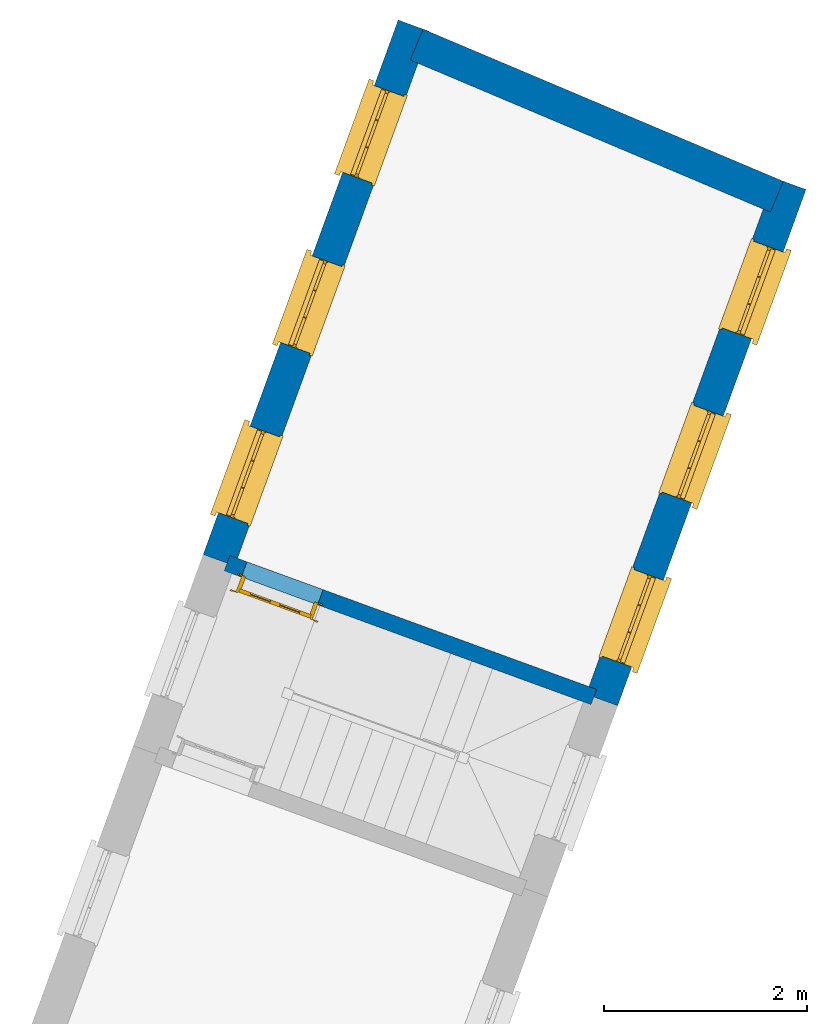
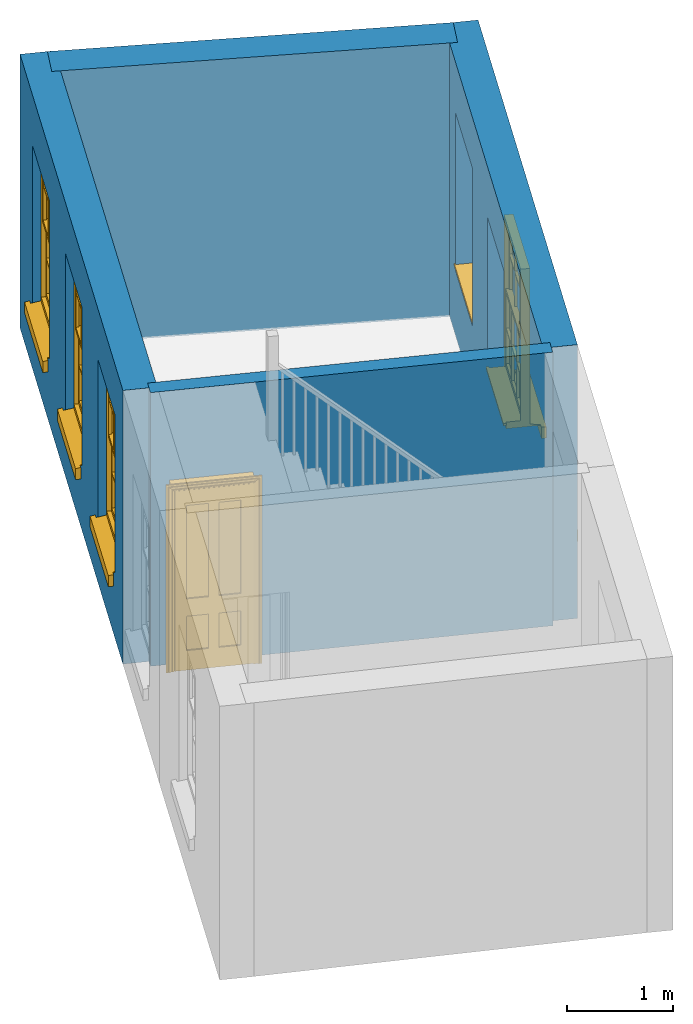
# One storey, part 2 of 2: 6 windows, 4 walls, 1 door, 7 openings.
"""IFC4 building model written with IfcOpenShell, lengths in metres."""

import ifcopenshell
import ifcopenshell.guid

model = None  # the IFC model being written
_history = None  # IfcOwnerHistory: only IFC2X3 demands one
_inside = {}  # id of a spatial element -> (the spatial element, [elements in it])
_under = {}  # id of a project, library or spatial element -> (it, [spatial elements below it])
_declared = {}  # id of a project -> (the project, [libraries it declares])
_typed = {}  # id of a type object -> (the type object, [elements of that type])
_made_of = {}  # id of a material, layer set ... -> (it, [elements and type objects made of it])


def new_model(schema):
    """Start an empty IFC model of exactly this schema.

    Asked for "IFC4X3", IfcOpenShell would pick the latest addendum, in which some entities
    have other attributes; the version numbers below select the first issue.
    IFC2X3 requires an IfcOwnerHistory on every rooted entity: one is made here for all.
    """
    global model, _history
    if schema == "IFC4X3":
        model = ifcopenshell.file(schema_version=(4, 3, 0, 0))
    else:
        model = ifcopenshell.file(schema=schema)
    _inside.clear()
    _under.clear()
    _declared.clear()
    _typed.clear()
    _made_of.clear()
    _history = None
    if model.schema == "IFC2X3":
        org = make("IfcOrganization", Name="unknown")
        user = make(
            "IfcPersonAndOrganization",
            ThePerson=make("IfcPerson", FamilyName="unknown"),
            TheOrganization=org,
        )
        app = make(
            "IfcApplication",
            ApplicationDeveloper=org,
            Version="unknown",
            ApplicationFullName="unknown",
            ApplicationIdentifier="unknown",
        )
        _history = make(
            "IfcOwnerHistory",
            OwningUser=user,
            OwningApplication=app,
            ChangeAction="ADDED",
            CreationDate=0,
        )
    return model


def make(cls, **values):
    """One entity of the class cls with the attributes given. An attribute that is None is left unset."""
    return model.create_entity(
        cls, **{name: value for name, value in values.items() if value is not None}
    )


def rooted(cls, **values):
    """An entity with a GlobalId (a new one), such as an element, a storey or a relation."""
    return make(cls, GlobalId=ifcopenshell.guid.new(), OwnerHistory=_history, **values)


def si_unit(unit_type, name, prefix=None):
    """IfcSIUnit, for example si_unit("LENGTHUNIT", "METRE", prefix="MILLI")."""
    return make("IfcSIUnit", UnitType=unit_type, Prefix=prefix, Name=name)


def assignment(units):
    """IfcUnitAssignment: the units of a project."""
    return None if units is None else make("IfcUnitAssignment", Units=units)


def point(xyz):
    """IfcCartesianPoint."""
    return None if xyz is None else make("IfcCartesianPoint", Coordinates=xyz)


def direction(xyz):
    """IfcDirection."""
    return None if xyz is None else make("IfcDirection", DirectionRatios=xyz)


def frame(location, z_axis=None, x_axis=None):
    """IfcAxis2Placement3D, a coordinate frame: its origin and axes. An axis left out is left unset."""
    return make(
        "IfcAxis2Placement3D",
        Location=point(location),
        Axis=direction(z_axis),
        RefDirection=direction(x_axis),
    )


def origin():
    """The frame at (0, 0, 0) with its axes left unset."""
    return frame((0.0, 0.0, 0.0))


def origin_with_axes():
    """The frame at (0, 0, 0) with the z axis (0, 0, 1) and the x axis (1, 0, 0) written out."""
    return frame((0.0, 0.0, 0.0), z_axis=(0.0, 0.0, 1.0), x_axis=(1.0, 0.0, 0.0))


def place(relative_to, where):
    """IfcLocalPlacement: puts the frame where relative to a parent placement (None: the world)."""
    return make(
        "IfcLocalPlacement", PlacementRelTo=relative_to, RelativePlacement=where
    )


def context(
    kind, dimensions, precision=None, world=None, true_north=None, identifier=None
):
    """IfcGeometricRepresentationContext, for example the 3D "Model" context."""
    return make(
        "IfcGeometricRepresentationContext",
        ContextIdentifier=identifier,
        ContextType=kind,
        CoordinateSpaceDimension=dimensions,
        Precision=precision,
        WorldCoordinateSystem=world,
        TrueNorth=true_north,
    )


def subcontext(parent, identifier, kind, view, scale=None):
    """IfcGeometricRepresentationSubContext, for example "Body" below "Model"."""
    return make(
        "IfcGeometricRepresentationSubContext",
        ContextIdentifier=identifier,
        ContextType=kind,
        ParentContext=parent,
        TargetScale=scale,
        TargetView=view,
    )


def project(units=None, contexts=None):
    """IfcProject with its units and contexts."""
    return rooted(
        "IfcProject",
        Name="project",
        RepresentationContexts=contexts,
        UnitsInContext=assignment(units),
    )


def spatial(cls, under=None, at=None, **own):
    """A site, building, storey or space (cls), placed at a placement, below another one or the project."""
    s = rooted(cls, ObjectPlacement=at, **own)
    if under is not None:
        _under.setdefault(under.id(), (under, []))[1].append(s)
    return s


def polyline(points):
    """IfcPolyline through the points."""
    return make("IfcPolyline", Points=[point(p) for p in points])


def outline(outer, holes=None, kind="AREA"):
    """IfcArbitraryClosedProfileDef: a profile drawn as a closed curve; with holes, ...WithVoids."""
    if holes is None:
        return make("IfcArbitraryClosedProfileDef", ProfileType=kind, OuterCurve=outer)
    return make(
        "IfcArbitraryProfileDefWithVoids",
        ProfileType=kind,
        OuterCurve=outer,
        InnerCurves=holes,
    )


def extrude(swept, where, along, depth):
    """IfcExtrudedAreaSolid: the profile swept, set in the frame where, extruded along a direction by depth."""
    return make(
        "IfcExtrudedAreaSolid",
        SweptArea=swept,
        Position=where,
        ExtrudedDirection=direction(along),
        Depth=depth,
    )


def faces_of(points, faces, orient=None, outer=None):
    """IfcFace entities. A face is a list of loops; a loop is a list of indices into points, from 0.

    orient and outer hold one flag for each loop. By default every Orientation is true, the
    first loop of a face is its IfcFaceOuterBound and the others are IfcFaceBound.
    """
    made = []
    for i, loops in enumerate(faces):
        bounds = []
        for j, loop in enumerate(loops):
            is_outer = j == 0 if outer is None else outer[i][j]
            bounds.append(
                make(
                    "IfcFaceOuterBound" if is_outer else "IfcFaceBound",
                    Bound=make("IfcPolyLoop", Polygon=[points[k] for k in loop]),
                    Orientation=True if orient is None else orient[i][j],
                )
            )
        made.append(make("IfcFace", Bounds=bounds))
    return made


def faceted_brep(points, faces, orient=None, outer=None, voids=None):
    """IfcFacetedBrep: a solid bounded by flat faces; with voids (closed shells), ...WithVoids."""
    shared = [point(p) for p in points]
    hull = make("IfcClosedShell", CfsFaces=faces_of(shared, faces, orient, outer))
    if voids is None:
        return make("IfcFacetedBrep", Outer=hull)
    return make(
        "IfcFacetedBrepWithVoids",
        Outer=hull,
        Voids=[
            make(cls, CfsFaces=faces_of(shared, fs, o, b)) for cls, fs, o, b in voids
        ],
    )


def shape(context_of_items, identifier, shape_type, items):
    """IfcShapeRepresentation: the items that make up one representation, for example the "Body"."""
    return make(
        "IfcShapeRepresentation",
        ContextOfItems=context_of_items,
        RepresentationIdentifier=identifier,
        RepresentationType=shape_type,
        Items=items,
    )


def source(mapping_origin, context_of_items, identifier, shape_type, items):
    """IfcRepresentationMap: a shape defined once, which mapped items show again and again."""
    return make(
        "IfcRepresentationMap",
        MappingOrigin=mapping_origin,
        MappedRepresentation=shape(context_of_items, identifier, shape_type, items),
    )


def transform(
    local_origin,
    x_axis=None,
    y_axis=None,
    z_axis=None,
    scale=None,
    scale2=None,
    scale3=None,
    uniform=True,
):
    """IfcCartesianTransformationOperator3D, or its non-uniform kind. x_axis, y_axis, z_axis: its Axis1, 2, 3."""
    if uniform:
        return make(
            "IfcCartesianTransformationOperator3D",
            Axis1=direction(x_axis),
            Axis2=direction(y_axis),
            LocalOrigin=point(local_origin),
            Scale=scale,
            Axis3=direction(z_axis),
        )
    return make(
        "IfcCartesianTransformationOperator3DnonUniform",
        Axis1=direction(x_axis),
        Axis2=direction(y_axis),
        LocalOrigin=point(local_origin),
        Scale=scale,
        Axis3=direction(z_axis),
        Scale2=scale2,
        Scale3=scale3,
    )


def mapped(mapping_source, mapping_target):
    """IfcMappedItem: shows the shape of a source again, moved by a transform."""
    return make(
        "IfcMappedItem", MappingSource=mapping_source, MappingTarget=mapping_target
    )


def material(Name=None, Category=None):
    """IfcMaterial."""
    return make("IfcMaterial", Name=Name, Category=Category)


def layer(
    of_material, thickness, ventilated=None, Name=None, Category=None, Priority=None
):
    """IfcMaterialLayer: one layer of a wall or slab, of a material (None: an air gap)."""
    return make(
        "IfcMaterialLayer",
        Material=of_material,
        LayerThickness=thickness,
        IsVentilated=ventilated,
        Name=Name,
        Category=Category,
        Priority=Priority,
    )


def layer_set(layers, Name=None):
    """IfcMaterialLayerSet."""
    return make("IfcMaterialLayerSet", MaterialLayers=layers, LayerSetName=Name)


def layer_usage(for_layer_set, set_direction, sense, offset, extent=None):
    """IfcMaterialLayerSetUsage: how a layer set lies in its element."""
    return make(
        "IfcMaterialLayerSetUsage",
        ForLayerSet=for_layer_set,
        LayerSetDirection=set_direction,
        DirectionSense=sense,
        OffsetFromReferenceLine=offset,
        ReferenceExtent=extent,
    )


def made_of(thing, what):
    """Note that an element or type object is made of a material, layer set ...; save() writes the relation."""
    if what is not None:
        _made_of.setdefault(what.id(), (what, []))[1].append(thing)
    return thing


def type_object(cls, material=None, **own):
    """A type object (cls), such as IfcWallType, which elements share."""
    return made_of(rooted(cls, **own), material)


def type_shapes(of_type, sources):
    """Give a type object the sources (RepresentationMaps) that its elements show as mapped items."""
    of_type.RepresentationMaps = sources


def element(
    cls,
    number,
    at=None,
    inside=None,
    cuts=None,
    type_object=None,
    material=None,
    context=None,
    identifier="Body",
    shape_type=None,
    held_by="IfcProductDefinitionShape",
    body=None,
    shapes=None,
    **own,
):
    """One element of the class cls, such as IfcWall. Its Tag is "e" and its number.

    at: its placement. inside: the storey or other place that contains it. cuts: it is an
    opening in that element (IfcRelVoidsElement). A single representation is given by context,
    identifier, shape_type and body (its items); several are given by shapes. held_by: the class
    of the entity that holds the representations. save() writes the other relations.
    """
    e = rooted(cls, Tag="e%d" % number, ObjectPlacement=at, **own)
    if body is not None:
        shapes = [shape(context, identifier, shape_type, body)]
    if shapes is not None:
        e.Representation = make(held_by, Representations=shapes)
    if inside is not None:
        _inside.setdefault(inside.id(), (inside, []))[1].append(e)
    if cuts is not None:
        rooted(
            "IfcRelVoidsElement", RelatingBuildingElement=cuts, RelatedOpeningElement=e
        )
    if type_object is not None:
        _typed.setdefault(type_object.id(), (type_object, []))[1].append(e)
    return made_of(e, material)


def fill(opening, filler):
    """IfcRelFillsElement: the door or window that sits in an opening."""
    return rooted(
        "IfcRelFillsElement",
        RelatingOpeningElement=opening,
        RelatedBuildingElement=filler,
    )


def aggregate(whole, parts):
    """IfcRelAggregates: a whole, such as a stair, and the parts it consists of."""
    return rooted("IfcRelAggregates", RelatingObject=whole, RelatedObjects=parts)


def save(model, path):
    """Write the relations noted so far, then the file.

    IfcRelAggregates (storeys below a building ...), IfcRelContainedInSpatialStructure (elements
    in a storey), IfcRelDefinesByType, IfcRelAssociatesMaterial and IfcRelDeclares: one each for
    every whole, place, type object, material and project.
    """
    for whole, parts in _under.values():
        aggregate(whole, parts)
    for where, things in _inside.values():
        rooted(
            "IfcRelContainedInSpatialStructure",
            RelatedElements=things,
            RelatingStructure=where,
        )
    for kind, things in _typed.values():
        rooted("IfcRelDefinesByType", RelatedObjects=things, RelatingType=kind)
    for what, things in _made_of.values():
        rooted("IfcRelAssociatesMaterial", RelatedObjects=things, RelatingMaterial=what)
    for by, libraries in _declared.values():
        rooted("IfcRelDeclares", RelatingContext=by, RelatedDefinitions=libraries)
    model.write(path)


model = new_model("IFC4")

# Units and contexts
model_context = context("Model", 3, world=origin_with_axes())
body_context = subcontext(model_context, "Body", "Model", "MODEL_VIEW")
ifc_project = project(units=[si_unit("PLANEANGLEUNIT", "RADIAN"), si_unit("MASSUNIT", "GRAM", prefix="KILO"), si_unit("FORCEUNIT", "NEWTON", prefix="KILO"), si_unit("LENGTHUNIT", "METRE"), si_unit("AREAUNIT", "SQUARE_METRE"), si_unit("VOLUMEUNIT", "CUBIC_METRE")], contexts=[model_context, model_context])

# Sites, building, storey
site_1_placement = place(None, origin_with_axes())
site_1 = spatial("IfcSite", under=ifc_project, at=site_1_placement, Name="Tamar")
site_2_placement = place(site_1_placement, origin_with_axes())
site_2 = spatial("IfcSite", under=site_1, at=site_2_placement, Name="Site plot-14", CompositionType="ELEMENT")
building_placement = place(None, origin_with_axes())
building = spatial("IfcBuilding", under=site_2, at=building_placement, Name="Building plot-14", CompositionType="ELEMENT")
storey_placement = place(None, frame((0.0, 0.0, 30.4), z_axis=(0.0, 0.0, 1.0), x_axis=(1.0, 0.0, 0.0)))
storey = spatial("IfcBuildingStorey", under=building, at=storey_placement, Name="plot-14 1", CompositionType="ELEMENT", Elevation=30.4)

# Wall, openings, windows
ifc_material_1 = material(Name="Masonry")
ifc_layer_1 = layer(ifc_material_1, 0.33, ventilated=False)
ifc_layer_set_1 = layer_set([ifc_layer_1], Name="exterior_0.08_0.25")
ifc_layer_usage_1 = layer_usage(ifc_layer_set_1, "AXIS2", "POSITIVE", -0.25)
wall_type_1 = type_object("IfcWallType", Name="exterior_0.08_0.25", PredefinedType="SOLIDWALL", material=ifc_layer_set_1)
wall_1_placement = place(storey_placement, frame((252.099215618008, 316.338381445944, 0.0), z_axis=(0.0, 0.0, 1.0), x_axis=(-0.342734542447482, -0.939432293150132, 0.0)))
wall_1 = element("IfcWall", 1, at=wall_1_placement, inside=storey, type_object=wall_type_1, material=ifc_layer_usage_1, Name="exterior", context=body_context, shape_type="SweptSolid", body=[
    extrude(outline(polyline([(-0.249999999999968, 0.0800000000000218), (-0.24999999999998, -0.249999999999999), (5.36216844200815, -0.250000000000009), (5.36216844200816, 0.0800000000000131), (-0.249999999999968, 0.0800000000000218)])), origin_with_axes(), (0.0, 0.0, 1.0), 3.15),
])
opening_1_placement = place(wall_1_placement, frame((0.438694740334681, 0.0, 0.75)))
opening_1 = element("IfcOpeningElement", 2, at=opening_1_placement, cuts=wall_1, Name="My Opening", ObjectType="Opening", context=body_context, shape_type="SweptSolid", body=[
    extrude(outline(polyline([(0.0, -0.270000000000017), (0.910000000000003, -0.269999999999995), (0.910000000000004, 1.10000000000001), (8.32667268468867e-16, 1.09999999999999), (0.0, -0.270000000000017)])), origin_with_axes(), (0.0, 0.0, 1.0), 1.82),
])
opening_2_placement = place(wall_1_placement, frame((2.22608422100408, 0.0, 0.75)))
opening_2 = element("IfcOpeningElement", 3, at=opening_2_placement, cuts=wall_1, Name="My Opening", ObjectType="Opening", context=body_context, shape_type="SweptSolid", body=[
    extrude(outline(polyline([(0.0, -0.27000000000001), (0.909999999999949, -0.270000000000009), (0.909999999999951, 1.1), (1.33226762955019e-15, 1.1), (0.0, -0.27000000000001)])), origin_with_axes(), (0.0, 0.0, 1.0), 1.82),
])
opening_3_placement = place(wall_1_placement, frame((4.01347370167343, 0.0, 0.75)))
opening_3 = element("IfcOpeningElement", 4, at=opening_3_placement, cuts=wall_1, Name="My Opening", ObjectType="Opening", context=body_context, shape_type="SweptSolid", body=[
    extrude(outline(polyline([(0.0, -0.270000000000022), (0.910000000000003, -0.270000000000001), (0.910000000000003, 1.10000000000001), (0.0, 1.09999999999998), (0.0, -0.270000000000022)])), origin_with_axes(), (0.0, 0.0, 1.0), 1.82),
])
window_type = type_object("IfcWindowType", Name="sash_big", PartitioningType="DOUBLE_PANEL_HORIZONTAL", PredefinedType="NOTDEFINED")
shared_shape_1 = source(origin(), body_context, "Body", "Brep", [
    faceted_brep([(0.033125, 0.145, 0.975209), (0.01, 0.145, 0.975209), (0.033125, 0.145, 1.376042), (0.876875, 0.145, 0.975209), (0.876875, 0.145, 1.376042), (0.9, 0.145, 0.975209), (0.876875, 0.145, 1.386042), (0.876875, 0.145, 1.786875), (0.9, 0.145, 1.81), (0.033125, 0.145, 1.786875), (0.033125, 0.145, 1.386042), (0.01, 0.145, 1.81), (0.876875, 0.115, 1.376042), (0.876875, 0.115, 0.975209), (0.9, 0.115, 0.937083), (0.033125, 0.115, 1.786875), (0.01, 0.115, 1.81), (0.033125, 0.115, 1.386042), (0.01, 0.115, 0.937083), (0.033125, 0.115, 0.975209), (0.033125, 0.115, 1.376042), (0.876875, 0.115, 1.786875), (0.876875, 0.115, 1.386042), (0.9, 0.115, 1.81), (0.033125, 0.145, 0.937083), (0.01, 0.145, 0.937083), (0.033125, 0.145, 0.53625), (0.876875, 0.145, 0.937083), (0.876875, 0.145, 0.53625), (0.9, 0.145, 0.937083), (0.876875, 0.145, 0.52625), (0.876875, 0.145, 0.125417), (0.9, 0.145, 0.077167), (0.033125, 0.145, 0.125417), (0.033125, 0.145, 0.52625), (0.01, 0.145, 0.077167), (-0.0425, 0.0, 0.01), (-0.0425, -0.05, 0.001667), (0.0, 0.0, 0.01), (0.9525, 0.0, 0.01), (0.91, 0.0, 0.01), (0.9525, -0.05, 0.001667), (-0.02, 0.33, 0.077167), (0.0, 0.33, 0.077167), (-0.02, 0.36, 0.077167), (0.0, 0.19, 0.077167), (0.01, 0.19, 0.077167), (0.91, 0.19, 0.077167), (0.91, 0.33, 0.077167), (0.9, 0.19, 0.077167), (0.93, 0.33, 0.077167), (0.93, 0.36, 0.077167), (0.01, 0.175, 0.975209), (0.9, 0.175, 0.975209), (0.876875, 0.175, 0.125417), (0.876875, 0.175, 0.52625), (0.9, 0.175, 0.077167), (0.876875, 0.175, 0.53625), (0.876875, 0.175, 0.937083), (0.033125, 0.175, 0.125417), (0.01, 0.175, 0.077167), (0.033125, 0.175, 0.52625), (0.033125, 0.175, 0.937083), (0.033125, 0.175, 0.53625), (-0.02, 0.33, 0.052167), (-0.02, 0.36, 0.052167), (0.93, 0.36, 0.052167), (0.93, 0.33, 0.052167), (0.91, 0.33, 0.052167), (0.0, 0.33, 0.052167), (0.91, 0.1, 0.026667), (0.0, 0.1, 0.026667), (-0.0425, -0.05, -0.123333), (0.9525, -0.05, -0.123333), (-0.0425, 0.0, -0.123333), (0.9525, 0.0, -0.123333), (0.01, 0.19, 1.81), (0.9, 0.19, 1.81), (0.0, 0.19, 1.82), (0.91, 0.19, 1.82), (0.01, 0.1, 0.077167), (0.9, 0.1, 0.077167), (0.592292, 0.145, 0.125417), (0.592292, 0.175, 0.125417), (0.317708, 0.175, 0.125417), (0.317708, 0.145, 0.125417), (0.592292, 0.145, 0.53625), (0.317708, 0.145, 0.53625), (0.317708, 0.145, 0.52625), (0.592292, 0.145, 0.52625), (0.592292, 0.175, 0.53625), (0.317708, 0.175, 0.53625), (0.592292, 0.115, 1.386042), (0.592292, 0.145, 1.386042), (0.317708, 0.145, 1.386042), (0.317708, 0.115, 1.386042), (0.317708, 0.115, 1.376042), (0.592292, 0.115, 1.376042), (0.317708, 0.145, 1.376042), (0.592292, 0.145, 1.376042), (0.602292, 0.115, 1.376042), (0.592292, 0.115, 0.975209), (0.602292, 0.115, 0.975209), (0.602292, 0.145, 0.975209), (0.592292, 0.145, 0.975209), (0.602292, 0.145, 1.376042), (0.602292, 0.175, 0.53625), (0.602292, 0.145, 0.53625), (0.317708, 0.175, 0.52625), (0.307708, 0.175, 0.125417), (0.307708, 0.175, 0.52625), (0.602292, 0.175, 0.52625), (0.602292, 0.175, 0.125417), (0.592292, 0.175, 0.52625), (0.307708, 0.175, 0.53625), (0.317708, 0.175, 0.937083), (0.307708, 0.175, 0.937083), (0.602292, 0.175, 0.937083), (0.592292, 0.175, 0.937083), (0.307708, 0.145, 0.52625), (0.307708, 0.145, 0.125417), (0.307708, 0.145, 0.53625), (0.307708, 0.145, 0.937083), (0.592292, 0.145, 0.937083), (0.317708, 0.145, 0.937083), (0.602292, 0.145, 0.937083), (0.602292, 0.145, 0.52625), (0.602292, 0.145, 0.125417), (0.307708, 0.115, 1.386042), (0.307708, 0.115, 1.376042), (0.307708, 0.115, 0.975209), (0.317708, 0.115, 0.975209), (0.317708, 0.115, 1.786875), (0.307708, 0.115, 1.786875), (0.602292, 0.115, 1.786875), (0.592292, 0.115, 1.786875), (0.602292, 0.115, 1.386042), (0.602292, 0.145, 1.386042), (0.307708, 0.145, 1.386042), (0.307708, 0.145, 1.786875), (0.317708, 0.145, 1.786875), (0.592292, 0.145, 1.786875), (0.602292, 0.145, 1.786875), (0.307708, 0.145, 1.376042), (0.317708, 0.145, 0.975209), (0.307708, 0.145, 0.975209), (0.91, 0.1, 1.82), (0.9, 0.1, 1.81), (0.01, 0.1, 1.81), (0.0, 0.1, 1.82), (0.91, 0.0, 0.0), (0.0, 0.0, 0.0), (0.91, 0.33, 0.0), (0.0, 0.33, 0.0)], [[[0, 1, 2]], [[3, 4, 5]], [[6, 7, 8]], [[9, 10, 11]], [[12, 13, 14]], [[15, 16, 17]], [[18, 19, 20]], [[21, 22, 23]], [[24, 25, 26]], [[27, 28, 29]], [[30, 31, 32]], [[33, 34, 35]], [[14, 27, 29]], [[25, 24, 18]], [[36, 37, 38]], [[39, 40, 41]], [[42, 43, 44]], [[45, 46, 43]], [[47, 48, 49]], [[50, 51, 48]], [[1, 0, 52]], [[5, 53, 3]], [[54, 55, 56]], [[57, 58, 53]], [[59, 60, 61]], [[62, 63, 52]], [[48, 43, 46, 49]], [[51, 44, 43, 48]], [[64, 42, 44, 65]], [[65, 44, 51, 66]], [[66, 51, 50, 67]], [[65, 66, 68, 69]], [[60, 56, 49, 46]], [[70, 71, 38, 40]], [[37, 41, 40, 38]], [[37, 72, 73, 41]], [[74, 75, 73, 72]], [[8, 11, 76, 77]], [[76, 78, 79, 77]], [[32, 35, 80, 81]], [[81, 80, 71, 70]], [[82, 83, 84, 85]], [[86, 87, 88, 89]], [[86, 90, 91, 87]], [[92, 93, 94, 95]], [[92, 95, 96, 97]], [[96, 98, 99, 97]], [[100, 97, 101, 102]], [[103, 104, 99, 105]], [[97, 99, 104, 101]], [[102, 103, 105, 100]], [[28, 57, 106, 107]], [[108, 84, 109, 110]], [[111, 112, 83, 113]], [[114, 110, 61, 63]], [[90, 113, 108, 91]], [[115, 91, 114, 116]], [[117, 106, 90, 118]], [[111, 106, 57, 55]], [[119, 110, 109, 120]], [[34, 61, 110, 119]], [[89, 113, 83, 82]], [[88, 108, 113, 89]], [[85, 84, 108, 88]], [[121, 114, 63, 26]], [[122, 116, 114, 121]], [[123, 118, 90, 86]], [[87, 91, 115, 124]], [[107, 106, 117, 125]], [[126, 111, 55, 30]], [[127, 112, 111, 126]], [[126, 30, 28, 107]], [[88, 119, 120, 85]], [[126, 89, 82, 127]], [[125, 123, 86, 107]], [[121, 26, 34, 119]], [[124, 122, 121, 87]], [[128, 17, 20, 129]], [[96, 129, 130, 131]], [[132, 133, 128, 95]], [[134, 135, 92, 136]], [[100, 12, 22, 136]], [[137, 6, 4, 105]], [[94, 138, 139, 140]], [[137, 93, 141, 142]], [[99, 98, 94, 93]], [[143, 2, 10, 138]], [[144, 145, 143, 98]], [[129, 143, 145, 130]], [[20, 2, 143, 129]], [[131, 144, 98, 96]], [[128, 138, 10, 17]], [[133, 139, 138, 128]], [[135, 141, 93, 92]], [[95, 94, 140, 132]], [[22, 6, 137, 136]], [[136, 137, 142, 134]], [[100, 105, 4, 12]], [[107, 86, 89, 126]], [[106, 111, 113, 90]], [[91, 108, 110, 114]], [[87, 121, 119, 88]], [[97, 100, 136, 92]], [[129, 96, 95, 128]], [[98, 143, 138, 94]], [[105, 99, 93, 137]], [[131, 101, 104, 144]], [[124, 115, 118, 123]], [[132, 140, 141, 135]], [[120, 109, 59, 33]], [[15, 9, 139, 133]], [[134, 142, 7, 21]], [[31, 54, 112, 127]], [[36, 74, 72, 37]], [[39, 41, 73, 75]], [[18, 14, 101, 131]], [[23, 16, 132, 135]], [[83, 56, 60, 84]], [[52, 53, 118, 115]], [[53, 52, 144, 104]], [[11, 8, 141, 140]], [[14, 18, 124, 123]], [[2, 1, 11, 10]], [[8, 5, 4, 6]], [[57, 53, 56, 55]], [[60, 52, 63, 61]], [[26, 25, 35, 34]], [[32, 29, 28, 30]], [[14, 23, 22, 12]], [[18, 20, 17, 16]], [[19, 0, 2, 20]], [[17, 10, 9, 15]], [[12, 4, 3, 13]], [[21, 7, 6, 22]], [[27, 58, 57, 28]], [[30, 55, 54, 31]], [[33, 59, 61, 34]], [[26, 63, 62, 24]], [[5, 8, 77, 53]], [[76, 11, 1, 52]], [[46, 45, 78, 76]], [[49, 77, 79, 47]], [[70, 146, 147, 81]], [[71, 80, 148, 149]], [[19, 130, 145, 0]], [[102, 13, 3, 103]], [[116, 122, 24, 62]], [[29, 32, 81, 14]], [[80, 35, 25, 18]], [[60, 46, 76, 52]], [[77, 49, 56, 53]], [[23, 14, 81, 147]], [[16, 148, 80, 18]], [[35, 85, 120]], [[120, 33, 35]], [[127, 82, 32]], [[32, 31, 127]], [[32, 82, 85, 35]], [[102, 101, 14]], [[14, 13, 102]], [[18, 131, 130]], [[130, 19, 18]], [[134, 21, 23]], [[23, 135, 134]], [[16, 15, 133]], [[133, 132, 16]], [[11, 140, 139]], [[139, 9, 11]], [[142, 141, 8]], [[8, 7, 142]], [[23, 147, 148, 16]], [[146, 149, 148, 147]], [[52, 115, 116]], [[116, 62, 52]], [[118, 53, 117]], [[58, 117, 53]], [[27, 125, 117, 58]], [[56, 83, 112]], [[112, 54, 56]], [[109, 84, 60]], [[60, 59, 109]], [[125, 27, 14]], [[14, 123, 125]], [[122, 124, 18]], [[18, 24, 122]], [[145, 144, 52]], [[52, 0, 145]], [[103, 3, 53]], [[53, 104, 103]], [[79, 78, 149, 146]], [[78, 45, 71, 149]], [[146, 70, 47, 79]], [[150, 75, 74, 151]], [[68, 66, 67]], [[48, 68, 67, 50]], [[69, 64, 65]], [[42, 64, 69, 43]], [[69, 68, 152, 153]], [[70, 68, 48, 47]], [[150, 152, 68, 70]], [[43, 69, 71, 45]], [[69, 153, 151, 71]], [[152, 150, 151, 153]], [[38, 151, 74, 36]], [[71, 151, 38]], [[39, 75, 150, 40]], [[40, 150, 70]]]),
])
type_shapes(window_type, [shared_shape_1])
window_1_placement = place(storey_placement, frame((251.695213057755, 316.018795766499, 0.75), z_axis=(0.0, 0.0, 1.0), x_axis=(-0.311888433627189, -0.85488338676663, 0.0)))
window_1 = element("IfcWindow", 5, at=window_1_placement, inside=storey, type_object=window_type, Name="bedroom outside window", OverallHeight=1.82, OverallWidth=0.91, context=body_context, shape_type="MappedRepresentation", body=[
    mapped(shared_shape_1, transform((0.0, 0.0, 0.0), scale=1.0)),
])
fill(opening_1, window_1)
window_2_placement = place(storey_placement, frame((251.082612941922, 314.339664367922, 0.75), z_axis=(0.0, 0.0, 1.0), x_axis=(-0.311888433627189, -0.854883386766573, 0.0)))
window_2 = element("IfcWindow", 6, at=window_2_placement, inside=storey, type_object=window_type, Name="bedroom outside window", OverallHeight=1.82, OverallWidth=0.91, context=body_context, shape_type="MappedRepresentation", body=[
    mapped(shared_shape_1, transform((0.0, 0.0, 0.0), scale=1.0)),
])
fill(opening_2, window_2)
window_3_placement = place(storey_placement, frame((250.470012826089, 312.660532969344, 0.75), z_axis=(0.0, 0.0, 1.0), x_axis=(-0.311888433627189, -0.85488338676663, 0.0)))
window_3 = element("IfcWindow", 7, at=window_3_placement, inside=storey, type_object=window_type, Name="bedroom outside window", OverallHeight=1.82, OverallWidth=0.91, context=body_context, shape_type="MappedRepresentation", body=[
    mapped(shared_shape_1, transform((0.0, 0.0, 0.0), scale=1.0)),
])
fill(opening_3, window_3)

wall_2_placement = place(storey_placement, frame((253.880110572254, 309.980773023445, 0.0), z_axis=(0.0, 0.0, 1.0), x_axis=(0.342734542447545, 0.939432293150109, 0.0)))
wall_2 = element("IfcWall", 8, at=wall_2_placement, inside=storey, type_object=wall_type_1, material=ifc_layer_usage_1, Name="exterior", context=body_context, shape_type="SweptSolid", body=[
    extrude(outline(polyline([(7.25243449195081e-15, 0.0800000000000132), (1.80009210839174e-14, -0.250000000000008), (5.4201362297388, -0.250000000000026), (5.42013622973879, 0.0799999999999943), (7.25243449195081e-15, 0.0800000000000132)])), origin_with_axes(), (0.0, 0.0, 1.0), 3.15),
])
opening_4_placement = place(wall_2_placement, frame((0.406689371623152, 0.0, 0.75)))
opening_4 = element("IfcOpeningElement", 9, at=opening_4_placement, cuts=wall_2, Name="My Opening", ObjectType="Opening", context=body_context, shape_type="SweptSolid", body=[
    extrude(outline(polyline([(0.0, -0.269999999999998), (0.909999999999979, -0.270000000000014), (0.910000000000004, 1.10000000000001), (2.55906407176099e-14, 1.10000000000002), (0.0, -0.269999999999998)])), origin_with_axes(), (0.0, 0.0, 1.0), 1.82),
])
opening_5_placement = place(wall_2_placement, frame((2.13006811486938, 0.0, 0.75)))
opening_5 = element("IfcOpeningElement", 10, at=opening_5_placement, cuts=wall_2, Name="My Opening", ObjectType="Opening", context=body_context, shape_type="SweptSolid", body=[
    extrude(outline(polyline([(0.0, -0.270000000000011), (0.910000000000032, -0.270000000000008), (0.910000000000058, 1.10000000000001), (2.53130849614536e-14, 1.10000000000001), (0.0, -0.270000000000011)])), origin_with_axes(), (0.0, 0.0, 1.0), 1.82),
])
opening_6_placement = place(wall_2_placement, frame((3.85344685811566, 0.0, 0.75)))
opening_6 = element("IfcOpeningElement", 11, at=opening_6_placement, cuts=wall_2, Name="My Opening", ObjectType="Opening", context=body_context, shape_type="SweptSolid", body=[
    extrude(outline(polyline([(0.0, -0.270000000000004), (0.909999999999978, -0.270000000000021), (0.910000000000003, 1.1), (2.48689957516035e-14, 1.10000000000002), (0.0, -0.270000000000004)])), origin_with_axes(), (0.0, 0.0, 1.0), 1.82),
])
window_4_placement = place(storey_placement, frame((254.273143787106, 310.270291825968, 0.75), z_axis=(0.0, 0.0, 1.0), x_axis=(0.311888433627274, 0.854883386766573, 0.0)))
window_4 = element("IfcWindow", 12, at=window_4_placement, inside=storey, type_object=window_type, Name="bedroom outside window", OverallHeight=1.82, OverallWidth=0.91, context=body_context, shape_type="MappedRepresentation", body=[
    mapped(shared_shape_1, transform((0.0, 0.0, 0.0), scale=1.0)),
])
fill(opening_4, window_4)
window_5_placement = place(storey_placement, frame((254.863805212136, 311.889289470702, 0.75), z_axis=(0.0, 0.0, 1.0), x_axis=(0.311888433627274, 0.85488338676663, 0.0)))
window_5 = element("IfcWindow", 13, at=window_5_placement, inside=storey, type_object=window_type, Name="bedroom outside window", OverallHeight=1.82, OverallWidth=0.91, context=body_context, shape_type="MappedRepresentation", body=[
    mapped(shared_shape_1, transform((0.0, 0.0, 0.0), scale=1.0)),
])
fill(opening_5, window_5)
window_6_placement = place(storey_placement, frame((255.454466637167, 313.508287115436, 0.75), z_axis=(0.0, 0.0, 1.0), x_axis=(0.311888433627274, 0.854883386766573, 0.0)))
window_6 = element("IfcWindow", 14, at=window_6_placement, inside=storey, type_object=window_type, Name="bedroom outside window", OverallHeight=1.82, OverallWidth=0.91, context=body_context, shape_type="MappedRepresentation", body=[
    mapped(shared_shape_1, transform((0.0, 0.0, 0.0), scale=1.0)),
])
fill(opening_6, window_6)

# Wall
ifc_material_2 = material(Name="Masonry")
ifc_layer_2 = layer(ifc_material_2, 0.33, ventilated=False)
ifc_layer_set_2 = layer_set([ifc_layer_2], Name="party_0.08_0.25")
ifc_layer_usage_2 = layer_usage(ifc_layer_set_2, "AXIS2", "POSITIVE", -0.25)
wall_type_2 = type_object("IfcWallType", Name="party_0.08_0.25", PredefinedType="SOLIDWALL", material=ifc_layer_set_2)
wall_3_placement = place(storey_placement, frame((255.652094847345, 314.837765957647, 0.0), z_axis=(0.0, 0.0, 1.0), x_axis=(-0.921202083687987, 0.389084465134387, 0.0)))
element("IfcWall", 15, at=wall_3_placement, inside=storey, type_object=wall_type_2, material=ifc_layer_usage_2, Name="party", context=body_context, shape_type="SweptSolid", body=[
    extrude(outline(polyline([(1.46420789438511e-14, 0.0799999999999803), (9.89629300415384e-15, -0.250000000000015), (3.85678592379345, -0.250000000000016), (3.85678592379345, 0.0799999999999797), (1.46420789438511e-14, 0.0799999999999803)])), origin_with_axes(), (0.0, 0.0, 1.0), 3.15),
])

# Wall, opening, door
ifc_material_3 = material(Name="Masonry")
ifc_layer_3 = layer(ifc_material_3, 0.16, ventilated=False)
ifc_layer_set_3 = layer_set([ifc_layer_3], Name="interior_0.08_0.08")
ifc_layer_usage_3 = layer_usage(ifc_layer_set_3, "AXIS2", "POSITIVE", -0.08)
wall_type_3 = type_object("IfcWallType", Name="interior_0.08_0.08", PredefinedType="SOLIDWALL", material=ifc_layer_set_3)
wall_4_placement = place(storey_placement, frame((253.880110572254, 309.980773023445, 0.0), z_axis=(0.0, 0.0, 1.0), x_axis=(-0.939432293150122, 0.34273454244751, 0.0)))
wall_4 = element("IfcWall", 16, at=wall_4_placement, inside=storey, type_object=wall_type_3, material=ifc_layer_usage_3, Name="interior", context=body_context, shape_type="SweptSolid", body=[
    extrude(outline(polyline([(1.9971149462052e-14, 0.0799999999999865), (-1.99613522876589e-14, -0.0799999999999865), (3.85200224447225, -0.0799999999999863), (3.85200224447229, 0.0799999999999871), (1.9971149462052e-14, 0.0799999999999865)])), origin_with_axes(), (0.0, 0.0, 1.0), 3.15),
])
opening_7_placement = place(wall_4_placement, frame((2.87200224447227, 0.0, 0.0199999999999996)))
opening_7 = element("IfcOpeningElement", 17, at=opening_7_placement, cuts=wall_4, Name="My Opening", ObjectType="Opening", context=body_context, shape_type="SweptSolid", body=[
    extrude(outline(polyline([(0.0, -0.0999999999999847), (0.799999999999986, -0.10000000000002), (0.800000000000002, 1.09999999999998), (1.55431223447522e-14, 1.10000000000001), (0.0, -0.0999999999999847)])), origin_with_axes(), (0.0, 0.0, 1.0), 2.1),
])
door_type = type_object("IfcDoorType", Name="door_inside", OperationType="SINGLE_SWING_LEFT", PredefinedType="NOTDEFINED")
shared_shape_2 = source(origin(), body_context, "Body", "Brep", [
    faceted_brep([(0.773, 0.33, 1.895), (0.66, 0.33, 1.895), (0.66, 0.33, 2.073), (0.773, 0.33, 2.073), (0.773, 0.33, 0.82), (0.66, 0.33, 0.82), (0.45, 0.33, 1.895), (0.45, 0.33, 2.073), (0.773, 0.33, 0.62), (0.66, 0.33, 0.62), (0.66, 0.315, 0.82), (0.66, 0.315, 1.895), (0.45, 0.315, 1.895), (0.35, 0.33, 1.895), (0.35, 0.33, 2.073), (0.773, 0.33, 0.225), (0.66, 0.33, 0.225), (0.45, 0.33, 0.62), (0.45, 0.33, 0.82), (0.45, 0.315, 0.82), (0.35, 0.33, 0.82), (0.14, 0.33, 2.073), (0.14, 0.33, 1.895), (0.773, 0.33, 0.0), (0.66, 0.33, 0.0), (0.66, 0.315, 0.225), (0.66, 0.315, 0.62), (0.45, 0.315, 0.62), (0.35, 0.33, 0.62), (0.35, 0.315, 0.82), (0.35, 0.315, 1.895), (0.14, 0.315, 1.895), (0.027, 0.33, 2.073), (0.027, 0.33, 1.895), (0.773, 0.292, 0.0), (0.66, 0.292, 0.0), (0.45, 0.33, 0.0), (0.45, 0.33, 0.225), (0.45, 0.315, 0.225), (0.35, 0.33, 0.225), (0.14, 0.33, 0.82), (0.14, 0.33, 0.62), (0.14, 0.315, 0.82), (0.027, 0.33, 0.82), (0.773, 0.292, 0.225), (0.66, 0.292, 0.225), (0.45, 0.292, 0.0), (0.35, 0.33, 0.0), (0.35, 0.315, 0.225), (0.35, 0.315, 0.62), (0.14, 0.315, 0.62), (0.027, 0.33, 0.62), (0.773, 0.292, 0.62), (0.66, 0.292, 0.62), (0.45, 0.292, 0.225), (0.35, 0.292, 0.0), (0.14, 0.33, 0.225), (0.14, 0.33, 0.0), (0.14, 0.315, 0.225), (0.027, 0.33, 0.225), (0.773, 0.292, 0.82), (0.66, 0.292, 0.82), (0.66, 0.307, 0.62), (0.66, 0.307, 0.225), (0.45, 0.307, 0.225), (0.35, 0.292, 0.225), (0.14, 0.292, 0.0), (0.027, 0.33, 0.0), (0.773, 0.292, 1.895), (0.66, 0.292, 1.895), (0.45, 0.292, 0.62), (0.45, 0.292, 0.82), (0.45, 0.307, 0.62), (0.35, 0.292, 0.62), (0.14, 0.292, 0.225), (0.027, 0.292, 0.0), (0.773, 0.292, 2.073), (0.66, 0.292, 2.073), (0.66, 0.307, 1.895), (0.66, 0.307, 0.82), (0.45, 0.307, 0.82), (0.35, 0.292, 0.82), (0.35, 0.307, 0.62), (0.35, 0.307, 0.225), (0.14, 0.307, 0.225), (0.027, 0.292, 0.225), (0.45, 0.292, 1.895), (0.45, 0.292, 2.073), (0.45, 0.307, 1.895), (0.35, 0.292, 1.895), (0.14, 0.292, 0.82), (0.14, 0.292, 0.62), (0.14, 0.307, 0.62), (0.027, 0.292, 0.62), (0.35, 0.292, 2.073), (0.35, 0.307, 1.895), (0.35, 0.307, 0.82), (0.14, 0.307, 0.82), (0.027, 0.292, 0.82), (0.14, 0.292, 2.073), (0.14, 0.292, 1.895), (0.14, 0.307, 1.895), (0.027, 0.292, 1.895), (0.027, 0.292, 2.073), (0.02, 0.335, 0.0), (0.005, 0.34, 0.0), (0.005, 0.34, 2.095), (0.02, 0.335, 2.08), (0.02, 0.33, 0.0), (0.0, 0.335, 0.0), (0.0, 0.335, 2.1), (0.795, 0.34, 2.095), (0.78, 0.335, 2.08), (0.02, 0.33, 2.08), (0.0, 0.33, 0.0), (-0.032, 0.345, 0.0), (-0.032, 0.345, 2.132), (0.8, 0.335, 2.1), (0.795, 0.34, 0.0), (0.78, 0.335, 0.0), (0.78, 0.33, 2.08), (0.04, 0.29, 0.0), (0.025, 0.29, 0.0), (0.025, 0.29, 2.075), (0.04, 0.29, 2.06), (-0.04, 0.34, 0.0), (-0.04, 0.34, 2.14), (0.832, 0.345, 2.132), (0.8, 0.335, 0.0), (0.78, 0.33, 0.0), (0.8, 0.33, 0.0), (0.86, 0.33, 0.0), (0.86, 0.33, 2.16), (0.8, 0.33, 2.1), (-0.06, 0.33, 2.16), (0.0, 0.33, 2.1), (-0.06, 0.33, 0.0), (-0.04, 0.345, 0.0), (-0.04, 0.345, 2.14), (0.84, 0.34, 2.14), (0.832, 0.345, 0.0), (0.84, 0.34, 0.0), (0.86, 0.345, 0.0), (0.86, 0.345, 2.16), (-0.06, 0.345, 2.16), (-0.06, 0.345, 0.0), (0.84, 0.345, 0.0), (0.84, 0.345, 2.14), (-0.025, 0.155, 0.0), (-0.025, 0.16, 0.0), (-0.025, 0.16, 2.125), (-0.025, 0.155, 2.125), (-0.017, 0.155, 0.0), (-0.017, 0.155, 2.117), (0.825, 0.16, 2.125), (0.825, 0.155, 2.125), (0.825, 0.155, 0.0), (0.845, 0.155, 0.0), (-0.045, 0.155, 2.145), (-0.045, 0.155, 0.0), (0.845, 0.155, 2.145), (0.015, 0.165, 0.0), (0.015, 0.165, 2.085), (0.817, 0.155, 2.117), (0.825, 0.16, 0.0), (0.845, 0.17, 0.0), (0.845, 0.17, 2.145), (-0.045, 0.17, 2.145), (-0.045, 0.17, 0.0), (0.02, 0.16, 0.0), (0.02, 0.16, 2.08), (0.785, 0.165, 2.085), (0.817, 0.155, 0.0), (0.8, 0.17, 0.0), (0.8, 0.17, 2.1), (0.0, 0.17, 2.1), (0.0, 0.17, 0.0), (0.035, 0.165, 0.0), (0.035, 0.165, 2.065), (0.78, 0.16, 2.08), (0.785, 0.165, 0.0), (0.775, 0.29, 2.075), (0.76, 0.29, 2.06), (0.035, 0.17, 2.065), (0.035, 0.17, 0.0), (0.765, 0.165, 2.065), (0.78, 0.16, 0.0), (0.765, 0.17, 0.0), (0.765, 0.17, 2.065), (0.765, 0.165, 0.0), (0.04, 0.17, 2.06), (0.04, 0.17, 0.0), (0.76, 0.17, 2.06), (0.76, 0.17, 0.0), (0.76, 0.29, 0.0), (0.775, 0.29, 0.0), (0.025, 0.33, 0.0), (0.025, 0.33, 2.075), (0.775, 0.33, 0.0), (0.775, 0.33, 2.075)], [[[0, 1, 2, 3]], [[1, 0, 4, 5]], [[1, 6, 7, 2]], [[8, 9, 5, 4]], [[1, 5, 10, 11]], [[6, 1, 11, 12]], [[6, 13, 14, 7]], [[15, 16, 9, 8]], [[9, 17, 18, 5]], [[5, 18, 19, 10]], [[10, 19, 12, 11]], [[18, 6, 12, 19]], [[18, 20, 13, 6]], [[21, 14, 13, 22]], [[23, 24, 16, 15]], [[9, 16, 25, 26]], [[17, 9, 26, 27]], [[17, 28, 20, 18]], [[13, 20, 29, 30]], [[22, 13, 30, 31]], [[32, 21, 22, 33]], [[34, 35, 24, 23]], [[24, 36, 37, 16]], [[16, 37, 38, 25]], [[25, 38, 27, 26]], [[37, 17, 27, 38]], [[37, 39, 28, 17]], [[40, 20, 28, 41]], [[20, 40, 42, 29]], [[31, 30, 29, 42]], [[40, 22, 31, 42]], [[33, 22, 40, 43]], [[35, 34, 44, 45]], [[35, 46, 36, 24]], [[36, 47, 39, 37]], [[28, 39, 48, 49]], [[41, 28, 49, 50]], [[43, 40, 41, 51]], [[45, 44, 52, 53]], [[46, 35, 45, 54]], [[46, 55, 47, 36]], [[56, 39, 47, 57]], [[39, 56, 58, 48]], [[50, 49, 48, 58]], [[56, 41, 50, 58]], [[51, 41, 56, 59]], [[53, 52, 60, 61]], [[45, 53, 62, 63]], [[54, 45, 63, 64]], [[55, 46, 54, 65]], [[55, 66, 57, 47]], [[59, 56, 57, 67]], [[61, 60, 68, 69]], [[70, 53, 61, 71]], [[53, 70, 72, 62]], [[72, 64, 63, 62]], [[70, 54, 64, 72]], [[65, 54, 70, 73]], [[65, 74, 66, 55]], [[67, 57, 66, 75]], [[69, 68, 76, 77]], [[61, 69, 78, 79]], [[71, 61, 79, 80]], [[73, 70, 71, 81]], [[65, 73, 82, 83]], [[74, 65, 83, 84]], [[74, 85, 75, 66]], [[86, 69, 77, 87]], [[69, 86, 88, 78]], [[88, 80, 79, 78]], [[86, 71, 80, 88]], [[81, 71, 86, 89]], [[73, 81, 90, 91]], [[73, 91, 92, 82]], [[83, 82, 92, 84]], [[91, 74, 84, 92]], [[91, 93, 85, 74]], [[89, 86, 87, 94]], [[81, 89, 95, 96]], [[90, 81, 96, 97]], [[90, 98, 93, 91]], [[94, 99, 100, 89]], [[89, 100, 101, 95]], [[101, 97, 96, 95]], [[100, 90, 97, 101]], [[100, 102, 98, 90]], [[99, 103, 102, 100]], [[32, 103, 99, 21]], [[102, 103, 32, 33]], [[98, 102, 33, 43]], [[21, 99, 94, 14]], [[94, 87, 7, 14]], [[7, 87, 77, 2]], [[76, 3, 2, 77]], [[43, 51, 93, 98]], [[51, 59, 85, 93]], [[67, 75, 85, 59]], [[34, 23, 15, 44]], [[44, 15, 8, 52]], [[52, 8, 4, 60]], [[0, 68, 60, 4]], [[0, 3, 76, 68]], [[104, 105, 106, 107]], [[104, 108, 109, 105]], [[105, 109, 110, 106]], [[107, 106, 111, 112]], [[107, 113, 108, 104]], [[114, 109, 108]], [[109, 115, 116, 110]], [[106, 110, 117, 111]], [[112, 111, 118, 119]], [[113, 107, 112, 120]], [[121, 122, 123, 124]], [[115, 109, 114, 125]], [[115, 125, 126, 116]], [[110, 116, 127, 117]], [[111, 117, 128, 118]], [[118, 128, 129, 119]], [[120, 112, 119, 129]], [[130, 129, 128]], [[130, 131, 132, 133]], [[133, 132, 134, 135]], [[135, 134, 136, 114]], [[136, 125, 114]], [[125, 137, 138, 126]], [[116, 126, 139, 127]], [[117, 127, 140, 128]], [[141, 130, 128, 140]], [[131, 130, 141]], [[131, 142, 143, 132]], [[132, 143, 144, 134]], [[134, 144, 145, 136]], [[137, 125, 136, 145]], [[143, 142, 146]], [[143, 146, 147]], [[137, 145, 144]], [[143, 147, 138]], [[138, 137, 144]], [[143, 138, 144]], [[126, 138, 147, 139]], [[127, 139, 141, 140]], [[142, 131, 141, 146]], [[139, 147, 146, 141]], [[148, 149, 150, 151]], [[149, 152, 153, 150]], [[151, 150, 154, 155]], [[155, 156, 157]], [[158, 159, 148]], [[158, 148, 151]], [[155, 157, 160]], [[158, 151, 155]], [[155, 160, 158]], [[152, 161, 162, 153]], [[150, 153, 163, 154]], [[155, 154, 164, 156]], [[156, 164, 165, 157]], [[157, 165, 166, 160]], [[160, 166, 167, 158]], [[158, 167, 168, 159]], [[161, 169, 170, 162]], [[153, 162, 171, 163]], [[154, 163, 172, 164]], [[165, 164, 173]], [[165, 173, 174, 166]], [[166, 174, 175, 167]], [[167, 175, 176, 168]], [[169, 177, 178, 170]], [[162, 170, 179, 171]], [[163, 171, 180, 172]], [[172, 180, 173, 164]], [[124, 123, 181, 182]], [[183, 178, 177, 184]], [[170, 178, 185, 179]], [[171, 179, 186, 180]], [[187, 173, 180]], [[185, 188, 187, 189]], [[188, 185, 178, 183]], [[179, 185, 189, 186]], [[189, 187, 180, 186]], [[190, 183, 184, 191]], [[192, 188, 183, 190]], [[191, 184, 122, 121]], [[124, 190, 191, 121]], [[193, 187, 188, 192]], [[182, 192, 190, 124]], [[184, 176, 122]], [[194, 195, 187, 193]], [[192, 182, 194, 193]], [[161, 176, 184]], [[114, 108, 122, 176]], [[173, 187, 195]], [[152, 149, 176, 161]], [[169, 161, 184, 177]], [[196, 122, 108]], [[176, 175, 135, 114]], [[173, 195, 129, 130]], [[176, 149, 168]], [[123, 122, 196, 197]], [[196, 108, 113, 197]], [[175, 174, 133, 135]], [[198, 129, 195]], [[133, 174, 173, 130]], [[159, 168, 149, 148]], [[181, 123, 197, 199]], [[197, 113, 120, 199]], [[199, 120, 129, 198]], [[195, 181, 199, 198]], [[195, 194, 182, 181]]]),
])
type_shapes(door_type, [shared_shape_2])
door_placement = place(storey_placement, frame((251.216332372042, 311.059050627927, 0.0199999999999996), z_axis=(0.0, 0.0, 1.0), x_axis=(-0.751545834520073, 0.274187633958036, 0.0)))
door = element("IfcDoor", 18, at=door_placement, inside=storey, type_object=door_type, Name="bedroom inside door", OverallHeight=2.1, OverallWidth=0.8, context=body_context, shape_type="MappedRepresentation", body=[
    mapped(shared_shape_2, transform((0.0, 0.0, 0.0), scale=1.0)),
])
fill(opening_7, door)

save(model, "model.ifc")
